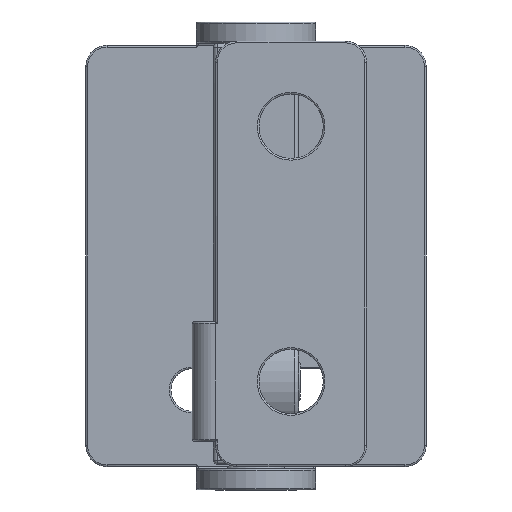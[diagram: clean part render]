
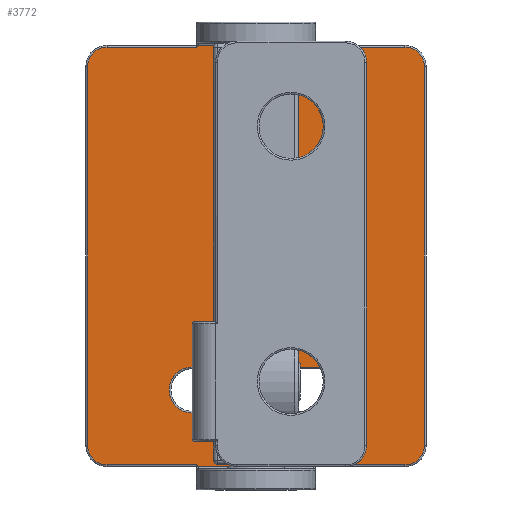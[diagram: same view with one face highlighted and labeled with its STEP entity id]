
A CAD part, front view. The second image highlights one B-rep face of the part: STEP entity #3772.
In plain terms, the highlighted planar face has unit normal (0, -1, 0).
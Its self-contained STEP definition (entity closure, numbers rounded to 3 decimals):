
#81=FACE_BOUND('',#573,.T.);
#82=FACE_BOUND('',#574,.T.);
#127=PLANE('',#4198);
#315=FACE_OUTER_BOUND('',#572,.T.);
#572=EDGE_LOOP('',(#2782,#2783,#2784,#2785,#2786,#2787,#2788,#2789,#2790,
#2791,#2792,#2793,#2794,#2795,#2796,#2797,#2798,#2799,#2800,#2801,#2802,
#2803,#2804,#2805));
#573=EDGE_LOOP('',(#2806,#2807,#2808,#2809));
#574=EDGE_LOOP('',(#2810,#2811,#2812,#2813));
#773=LINE('',#5969,#1032);
#776=LINE('',#5986,#1035);
#778=LINE('',#5999,#1037);
#782=LINE('',#6130,#1041);
#835=LINE('',#6333,#1094);
#838=LINE('',#6350,#1097);
#840=LINE('',#6363,#1099);
#843=LINE('',#6486,#1102);
#854=LINE('',#6576,#1113);
#856=LINE('',#6593,#1115);
#858=LINE('',#6600,#1117);
#860=LINE('',#6606,#1119);
#861=LINE('',#6608,#1120);
#862=LINE('',#6609,#1121);
#863=LINE('',#6611,#1122);
#864=LINE('',#6613,#1123);
#865=LINE('',#6615,#1124);
#866=LINE('',#6616,#1125);
#867=LINE('',#6619,#1126);
#868=LINE('',#6623,#1127);
#1032=VECTOR('',#4603,10.);
#1035=VECTOR('',#4622,10.);
#1037=VECTOR('',#4636,10.);
#1041=VECTOR('',#4652,10.);
#1094=VECTOR('',#4855,10.);
#1097=VECTOR('',#4874,10.);
#1099=VECTOR('',#4888,10.);
#1102=VECTOR('',#4903,10.);
#1113=VECTOR('',#4960,10.);
#1115=VECTOR('',#4980,10.);
#1117=VECTOR('',#4990,10.);
#1119=VECTOR('',#4998,10.);
#1120=VECTOR('',#4999,10.);
#1121=VECTOR('',#5000,10.);
#1122=VECTOR('',#5001,10.);
#1123=VECTOR('',#5002,10.);
#1124=VECTOR('',#5003,10.);
#1125=VECTOR('',#5004,10.);
#1126=VECTOR('',#5005,10.);
#1127=VECTOR('',#5008,10.);
#1296=CIRCLE('',#4050,2.3);
#1300=CIRCLE('',#4056,2.3);
#1303=CIRCLE('',#4060,0.2);
#1304=CIRCLE('',#4061,0.2);
#1357=CIRCLE('',#4145,2.3);
#1361=CIRCLE('',#4151,2.3);
#1364=CIRCLE('',#4155,0.2);
#1365=CIRCLE('',#4156,0.2);
#1381=CIRCLE('',#4187,2.7);
#1386=CIRCLE('',#4194,2.7);
#1387=CIRCLE('',#4199,2.7);
#1388=CIRCLE('',#4200,2.7);
#1582=VERTEX_POINT('',#5966);
#1583=VERTEX_POINT('',#5968);
#1586=VERTEX_POINT('',#5976);
#1588=VERTEX_POINT('',#5982);
#1590=VERTEX_POINT('',#5988);
#1594=VERTEX_POINT('',#5998);
#1595=VERTEX_POINT('',#6010);
#1596=VERTEX_POINT('',#6051);
#1603=VERTEX_POINT('',#6128);
#1677=VERTEX_POINT('',#6330);
#1678=VERTEX_POINT('',#6332);
#1681=VERTEX_POINT('',#6340);
#1683=VERTEX_POINT('',#6346);
#1685=VERTEX_POINT('',#6352);
#1689=VERTEX_POINT('',#6362);
#1690=VERTEX_POINT('',#6374);
#1691=VERTEX_POINT('',#6415);
#1695=VERTEX_POINT('',#6484);
#1703=VERTEX_POINT('',#6575);
#1707=VERTEX_POINT('',#6584);
#1708=VERTEX_POINT('',#6586);
#1709=VERTEX_POINT('',#6591);
#1710=VERTEX_POINT('',#6595);
#1711=VERTEX_POINT('',#6605);
#1712=VERTEX_POINT('',#6607);
#1713=VERTEX_POINT('',#6610);
#1714=VERTEX_POINT('',#6612);
#1715=VERTEX_POINT('',#6614);
#1716=VERTEX_POINT('',#6617);
#1717=VERTEX_POINT('',#6618);
#1718=VERTEX_POINT('',#6620);
#1719=VERTEX_POINT('',#6622);
#1908=EDGE_CURVE('',#1582,#1583,#773,.T.);
#1914=EDGE_CURVE('',#1583,#1586,#1296,.T.);
#1917=EDGE_CURVE('',#1586,#1588,#776,.T.);
#1920=EDGE_CURVE('',#1588,#1590,#1300,.T.);
#1923=EDGE_CURVE('',#1590,#1594,#778,.T.);
#1926=EDGE_CURVE('',#1595,#1582,#1303,.T.);
#1928=EDGE_CURVE('',#1594,#1596,#1304,.T.);
#1936=EDGE_CURVE('',#1595,#1603,#782,.T.);
#2035=EDGE_CURVE('',#1677,#1678,#835,.T.);
#2041=EDGE_CURVE('',#1678,#1681,#1357,.T.);
#2044=EDGE_CURVE('',#1681,#1683,#838,.T.);
#2047=EDGE_CURVE('',#1683,#1685,#1361,.T.);
#2050=EDGE_CURVE('',#1685,#1689,#840,.T.);
#2053=EDGE_CURVE('',#1690,#1677,#1364,.T.);
#2055=EDGE_CURVE('',#1689,#1691,#1365,.T.);
#2061=EDGE_CURVE('',#1690,#1695,#843,.T.);
#2083=EDGE_CURVE('',#1703,#1691,#854,.T.);
#2088=EDGE_CURVE('',#1707,#1708,#1381,.T.);
#2092=EDGE_CURVE('',#1708,#1709,#856,.T.);
#2094=EDGE_CURVE('',#1709,#1710,#1386,.T.);
#2096=EDGE_CURVE('',#1710,#1707,#858,.T.);
#2098=EDGE_CURVE('',#1711,#1603,#860,.T.);
#2099=EDGE_CURVE('',#1712,#1711,#861,.T.);
#2100=EDGE_CURVE('',#1703,#1712,#862,.T.);
#2101=EDGE_CURVE('',#1713,#1695,#863,.T.);
#2102=EDGE_CURVE('',#1714,#1713,#864,.T.);
#2103=EDGE_CURVE('',#1715,#1714,#865,.T.);
#2104=EDGE_CURVE('',#1715,#1596,#866,.T.);
#2105=EDGE_CURVE('',#1716,#1717,#867,.T.);
#2106=EDGE_CURVE('',#1718,#1716,#1387,.T.);
#2107=EDGE_CURVE('',#1719,#1718,#868,.T.);
#2108=EDGE_CURVE('',#1717,#1719,#1388,.T.);
#2782=ORIENTED_EDGE('',*,*,#1926,.F.);
#2783=ORIENTED_EDGE('',*,*,#1936,.T.);
#2784=ORIENTED_EDGE('',*,*,#2098,.F.);
#2785=ORIENTED_EDGE('',*,*,#2099,.F.);
#2786=ORIENTED_EDGE('',*,*,#2100,.F.);
#2787=ORIENTED_EDGE('',*,*,#2083,.T.);
#2788=ORIENTED_EDGE('',*,*,#2055,.F.);
#2789=ORIENTED_EDGE('',*,*,#2050,.F.);
#2790=ORIENTED_EDGE('',*,*,#2047,.F.);
#2791=ORIENTED_EDGE('',*,*,#2044,.F.);
#2792=ORIENTED_EDGE('',*,*,#2041,.F.);
#2793=ORIENTED_EDGE('',*,*,#2035,.F.);
#2794=ORIENTED_EDGE('',*,*,#2053,.F.);
#2795=ORIENTED_EDGE('',*,*,#2061,.T.);
#2796=ORIENTED_EDGE('',*,*,#2101,.F.);
#2797=ORIENTED_EDGE('',*,*,#2102,.F.);
#2798=ORIENTED_EDGE('',*,*,#2103,.F.);
#2799=ORIENTED_EDGE('',*,*,#2104,.T.);
#2800=ORIENTED_EDGE('',*,*,#1928,.F.);
#2801=ORIENTED_EDGE('',*,*,#1923,.F.);
#2802=ORIENTED_EDGE('',*,*,#1920,.F.);
#2803=ORIENTED_EDGE('',*,*,#1917,.F.);
#2804=ORIENTED_EDGE('',*,*,#1914,.F.);
#2805=ORIENTED_EDGE('',*,*,#1908,.F.);
#2806=ORIENTED_EDGE('',*,*,#2105,.F.);
#2807=ORIENTED_EDGE('',*,*,#2106,.F.);
#2808=ORIENTED_EDGE('',*,*,#2107,.F.);
#2809=ORIENTED_EDGE('',*,*,#2108,.F.);
#2810=ORIENTED_EDGE('',*,*,#2088,.F.);
#2811=ORIENTED_EDGE('',*,*,#2096,.F.);
#2812=ORIENTED_EDGE('',*,*,#2094,.F.);
#2813=ORIENTED_EDGE('',*,*,#2092,.F.);
#3772=ADVANCED_FACE('',(#315,#81,#82),#127,.F.);
#4050=AXIS2_PLACEMENT_3D('',#5980,#4615,#4616);
#4056=AXIS2_PLACEMENT_3D('',#5992,#4629,#4630);
#4060=AXIS2_PLACEMENT_3D('',#6041,#4639,#4640);
#4061=AXIS2_PLACEMENT_3D('',#6082,#4641,#4642);
#4145=AXIS2_PLACEMENT_3D('',#6344,#4867,#4868);
#4151=AXIS2_PLACEMENT_3D('',#6356,#4881,#4882);
#4155=AXIS2_PLACEMENT_3D('',#6405,#4891,#4892);
#4156=AXIS2_PLACEMENT_3D('',#6446,#4893,#4894);
#4187=AXIS2_PLACEMENT_3D('',#6587,#4970,#4971);
#4194=AXIS2_PLACEMENT_3D('',#6597,#4985,#4986);
#4198=AXIS2_PLACEMENT_3D('',#6604,#4996,#4997);
#4199=AXIS2_PLACEMENT_3D('',#6621,#5006,#5007);
#4200=AXIS2_PLACEMENT_3D('',#6624,#5009,#5010);
#4603=DIRECTION('',(1.,0.,0.));
#4615=DIRECTION('center_axis',(0.,1.,0.));
#4616=DIRECTION('ref_axis',(0.707,0.,0.707));
#4622=DIRECTION('',(0.,0.,-1.));
#4629=DIRECTION('center_axis',(0.,1.,0.));
#4630=DIRECTION('ref_axis',(0.707,0.,-0.707));
#4636=DIRECTION('',(-1.,0.,0.));
#4639=DIRECTION('center_axis',(0.,-1.,0.));
#4640=DIRECTION('ref_axis',(0.,0.,1.));
#4641=DIRECTION('center_axis',(0.,-1.,0.));
#4642=DIRECTION('ref_axis',(0.,0.,-1.));
#4652=DIRECTION('',(-1.,0.,0.));
#4855=DIRECTION('',(-1.,0.,0.));
#4867=DIRECTION('center_axis',(0.,1.,0.));
#4868=DIRECTION('ref_axis',(-0.707,0.,-0.707));
#4874=DIRECTION('',(0.,0.,1.));
#4881=DIRECTION('center_axis',(0.,1.,0.));
#4882=DIRECTION('ref_axis',(-0.707,0.,0.707));
#4888=DIRECTION('',(1.,0.,0.));
#4891=DIRECTION('center_axis',(0.,-1.,0.));
#4892=DIRECTION('ref_axis',(0.,0.,-1.));
#4893=DIRECTION('center_axis',(0.,-1.,0.));
#4894=DIRECTION('ref_axis',(0.,0.,1.));
#4903=DIRECTION('',(1.,0.,0.));
#4960=DIRECTION('',(-1.,0.,0.));
#4970=DIRECTION('center_axis',(0.,-1.,0.));
#4971=DIRECTION('ref_axis',(-1.,0.,0.));
#4980=DIRECTION('',(1.,0.,0.));
#4985=DIRECTION('center_axis',(0.,-1.,0.));
#4986=DIRECTION('ref_axis',(1.,0.,0.));
#4990=DIRECTION('',(-1.,0.,0.));
#4996=DIRECTION('center_axis',(0.,1.,0.));
#4997=DIRECTION('ref_axis',(0.,0.,1.));
#4998=DIRECTION('',(0.,0.,-1.));
#4999=DIRECTION('',(1.,0.,0.));
#5000=DIRECTION('',(0.,0.,1.));
#5001=DIRECTION('',(0.,0.,1.));
#5002=DIRECTION('',(-1.,0.,0.));
#5003=DIRECTION('',(0.,0.,-1.));
#5004=DIRECTION('',(1.,0.,0.));
#5005=DIRECTION('',(0.,0.,-1.));
#5006=DIRECTION('center_axis',(0.,-1.,0.));
#5007=DIRECTION('ref_axis',(0.,0.,1.));
#5008=DIRECTION('',(0.,0.,1.));
#5009=DIRECTION('center_axis',(0.,-1.,0.));
#5010=DIRECTION('ref_axis',(0.,0.,-1.));
#5966=CARTESIAN_POINT('',(7.01,0.,24.55));
#5968=CARTESIAN_POINT('',(17.5,0.,24.55));
#5969=CARTESIAN_POINT('',(-8.75,0.,24.55));
#5976=CARTESIAN_POINT('',(19.8,0.,22.25));
#5980=CARTESIAN_POINT('Origin',(17.5,0.,22.25));
#5982=CARTESIAN_POINT('',(19.8,0.,-22.25));
#5986=CARTESIAN_POINT('',(19.8,0.,11.125));
#5988=CARTESIAN_POINT('',(17.5,0.,-24.55));
#5992=CARTESIAN_POINT('Origin',(17.5,0.,-22.25));
#5998=CARTESIAN_POINT('',(7.01,0.,-24.55));
#5999=CARTESIAN_POINT('',(8.75,0.,-24.55));
#6010=CARTESIAN_POINT('',(6.81,0.,24.74));
#6041=CARTESIAN_POINT('Origin',(7.01,0.,24.75));
#6051=CARTESIAN_POINT('',(6.81,0.,-24.74));
#6082=CARTESIAN_POINT('Origin',(7.01,0.,-24.75));
#6128=CARTESIAN_POINT('',(6.8,0.,24.74));
#6130=CARTESIAN_POINT('',(3.5,0.,24.74));
#6330=CARTESIAN_POINT('',(-7.01,0.,-24.55));
#6332=CARTESIAN_POINT('',(-17.5,0.,-24.55));
#6333=CARTESIAN_POINT('',(8.75,0.,-24.55));
#6340=CARTESIAN_POINT('',(-19.8,0.,-22.25));
#6344=CARTESIAN_POINT('Origin',(-17.5,0.,-22.25));
#6346=CARTESIAN_POINT('',(-19.8,0.,22.25));
#6350=CARTESIAN_POINT('',(-19.8,0.,-11.125));
#6352=CARTESIAN_POINT('',(-17.5,0.,24.55));
#6356=CARTESIAN_POINT('Origin',(-17.5,0.,22.25));
#6362=CARTESIAN_POINT('',(-7.01,0.,24.55));
#6363=CARTESIAN_POINT('',(-8.75,0.,24.55));
#6374=CARTESIAN_POINT('',(-6.81,0.,-24.74));
#6405=CARTESIAN_POINT('Origin',(-7.01,0.,-24.75));
#6415=CARTESIAN_POINT('',(-6.81,0.,24.74));
#6446=CARTESIAN_POINT('Origin',(-7.01,0.,24.75));
#6484=CARTESIAN_POINT('',(-6.8,0.,-24.74));
#6486=CARTESIAN_POINT('',(-3.5,0.,-24.74));
#6575=CARTESIAN_POINT('',(-6.8,0.,24.74));
#6576=CARTESIAN_POINT('',(-3.505,0.,24.74));
#6584=CARTESIAN_POINT('',(-7.5,0.,-13.05));
#6586=CARTESIAN_POINT('',(-7.5,0.,-18.45));
#6587=CARTESIAN_POINT('Origin',(-7.5,0.,-15.75));
#6591=CARTESIAN_POINT('',(7.5,0.,-18.45));
#6593=CARTESIAN_POINT('',(-3.75,0.,-18.45));
#6595=CARTESIAN_POINT('',(7.5,0.,-13.05));
#6597=CARTESIAN_POINT('Origin',(7.5,0.,-15.75));
#6600=CARTESIAN_POINT('',(3.75,0.,-13.05));
#6604=CARTESIAN_POINT('Origin',(0.,0.,0.));
#6605=CARTESIAN_POINT('',(6.8,0.,24.75));
#6606=CARTESIAN_POINT('',(6.8,0.,12.375));
#6607=CARTESIAN_POINT('',(-6.8,0.,24.75));
#6608=CARTESIAN_POINT('',(-17.5,0.,24.75));
#6609=CARTESIAN_POINT('',(-6.8,0.,12.37));
#6610=CARTESIAN_POINT('',(-6.8,0.,-24.75));
#6611=CARTESIAN_POINT('',(-6.8,0.,-12.375));
#6612=CARTESIAN_POINT('',(6.8,0.,-24.75));
#6613=CARTESIAN_POINT('',(17.5,0.,-24.75));
#6614=CARTESIAN_POINT('',(6.8,0.,-24.74));
#6615=CARTESIAN_POINT('',(6.8,0.,-12.37));
#6616=CARTESIAN_POINT('',(3.505,0.,-24.74));
#6617=CARTESIAN_POINT('',(-2.7,0.,17.25));
#6618=CARTESIAN_POINT('',(-2.7,0.,2.25));
#6619=CARTESIAN_POINT('',(-2.7,0.,8.625));
#6620=CARTESIAN_POINT('',(2.7,0.,17.25));
#6621=CARTESIAN_POINT('Origin',(0.,0.,17.25));
#6622=CARTESIAN_POINT('',(2.7,0.,2.25));
#6623=CARTESIAN_POINT('',(2.7,0.,1.125));
#6624=CARTESIAN_POINT('Origin',(0.,0.,2.25));
